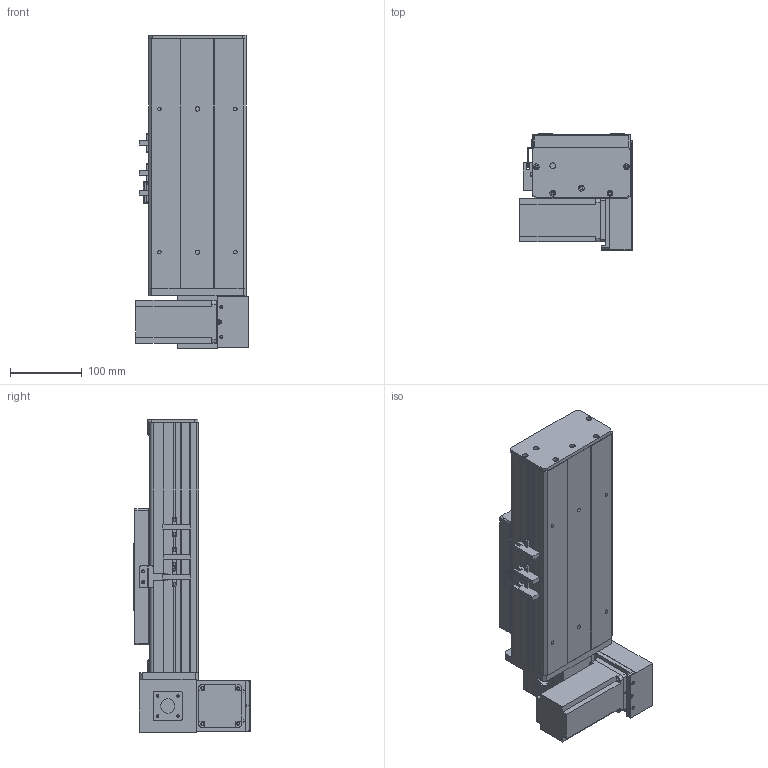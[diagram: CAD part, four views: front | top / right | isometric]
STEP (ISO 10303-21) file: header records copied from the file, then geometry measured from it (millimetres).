
FILE_DESCRIPTION (( 'STEP AP203' ), '1' );
FILE_NAME ('Y135CB-D90-S50-BM-P400W.STEP', '2020-02-18T08:53:27', ( '微软用户' ), ( '微软中国' ), 'SwSTEP 2.0', 'SolidWorks 2017', '' );
FILE_SCHEMA (( 'CONFIG_CONTROL_DESIGN' ));
Length unit declared in the file: millimetre
Products named in the file (18): 0B-埴倛裔啣; 5C--俋欶; 0B-源倛裔啣; C-雄赽釱--; 0B-萇儂楊擘啣; Y10B--々湍喘謫眊--666; san松下电机400不带刹车----; 00B-俋欶BM--; 5CB --掛极耜裔啣-; C-詩湍揤踡え-陔; Y135CB-耜裔; 135CB--詩湍-CE; 135CB---遴掛极.-; Y10B-耜蚾蟀諉啣----; Y100-135俋离換覜ん--; 35CB---喘謫眊楊擘啣; Y135CB-D90-S50-BM-P400W; Y135C-陔俋离換覜結え-
Assembly tree (21 placements, depth 2):
  Y135CB-D90-S50-BM-P400W
    Y135CB-耜裔
    135CB---遴掛极.-
    35CB---喘謫眊楊擘啣
    0B-埴倛裔啣
    0B-源倛裔啣
    0B-萇儂楊擘啣
    san松下电机400不带刹车----
    5CB --掛极耜裔啣-  x2
    C-詩湍揤踡え-陔  x2
    135CB--詩湍-CE
    Y100-135俋离換覜ん--  x3
    Y135C-陔俋离換覜結え-
    5C--俋欶
    C-雄赽釱--
    Y10B--々湍喘謫眊--666
    00B-俋欶BM--
    Y10B-耜蚾蟀諉啣----
Bounding box: 157 x 163.3 x 438 mm (x, y, z)
Volume: 1919443.9 mm3; surface area: 725797.9 mm2
Topology: 21 solids, 21 shells, 925 faces, 2437 edges, 1614 vertices
Faces by surface type: plane 456, cylinder 453, cone 16
Entity records: 28347 total; most frequent: DIRECTION 4705, CARTESIAN_POINT 4600, ORIENTED_EDGE 4350, EDGE_CURVE 2175, AXIS2_PLACEMENT_3D 1707, VERTEX_POINT 1442, VECTOR 1291, LINE 1291
